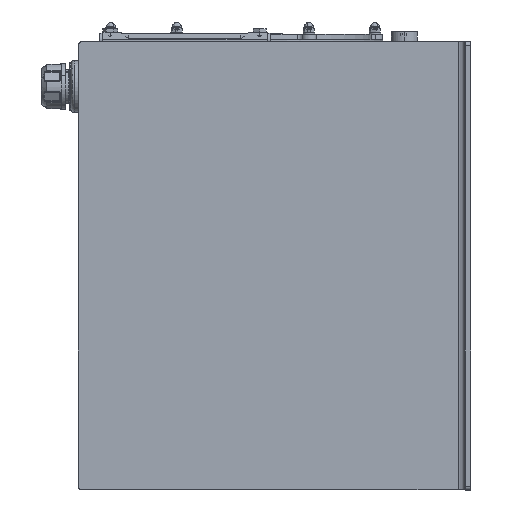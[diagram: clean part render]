
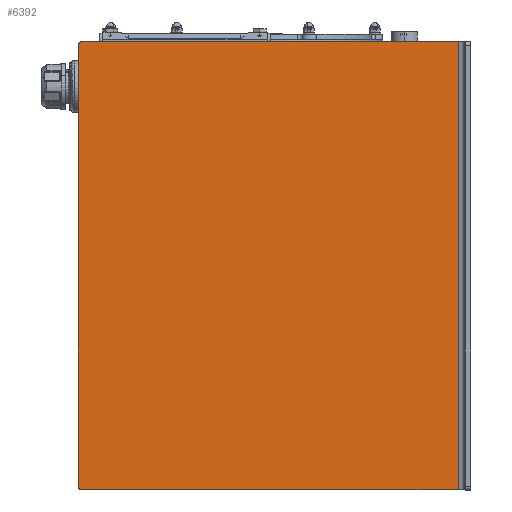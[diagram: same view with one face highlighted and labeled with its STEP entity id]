
A CAD part, left-side view. The second image highlights one B-rep face of the part: STEP entity #6392.
In plain terms, the highlighted planar face has unit normal (-1, 0, 0) as drawn and (0, 0, 1) by its records, which use the part's own axes.
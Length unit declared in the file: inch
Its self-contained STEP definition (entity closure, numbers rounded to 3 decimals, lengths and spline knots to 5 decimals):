
#198 = CIRCLE ( 'NONE', #17126, 0.25 ) ;
#606 = LINE ( 'NONE', #6933, #9617 ) ;
#3623 = EDGE_CURVE ( 'NONE', #11178, #16385, #4268, .T. ) ;
#3988 = CARTESIAN_POINT ( 'NONE',  ( -15., -12.2812, 0. ) ) ;
#4268 = LINE ( 'NONE', #34795, #9002 ) ;
#4302 = CARTESIAN_POINT ( 'NONE',  ( 15., 12.875, 0. ) ) ;
#5278 = DIRECTION ( 'NONE',  ( -1., 0., 0. ) ) ;
#6392 = ADVANCED_FACE ( 'NONE', ( #24016 ), #14517, .F. ) ;
#6541 = EDGE_CURVE ( 'NONE', #16385, #27013, #198, .T. ) ;
#6933 = CARTESIAN_POINT ( 'NONE',  ( -15., -13.125, 0. ) ) ;
#7048 = AXIS2_PLACEMENT_3D ( 'NONE', #19865, #28137, #25528 ) ;
#8403 = EDGE_CURVE ( 'NONE', #29697, #11178, #34665, .T. ) ;
#9002 = VECTOR ( 'NONE', #18332, 39.37008 ) ;
#9617 = VECTOR ( 'NONE', #12295, 39.37008 ) ;
#9919 = CARTESIAN_POINT ( 'NONE',  ( 14.75, 13.125, 0. ) ) ;
#10781 = VERTEX_POINT ( 'NONE', #13317 ) ;
#10877 = ORIENTED_EDGE ( 'NONE', *, *, #3623, .T. ) ;
#11178 = VERTEX_POINT ( 'NONE', #9919 ) ;
#11633 = CARTESIAN_POINT ( 'NONE',  ( 15., -13.125, 0. ) ) ;
#12295 = DIRECTION ( 'NONE',  ( 0., -1., 0. ) ) ;
#13317 = CARTESIAN_POINT ( 'NONE',  ( 15., -12.2812, 0. ) ) ;
#13559 = ORIENTED_EDGE ( 'NONE', *, *, #20766, .T. ) ;
#14517 = PLANE ( 'NONE',  #7048 ) ;
#15681 = DIRECTION ( 'NONE',  ( -1., 0., 0. ) ) ;
#16335 = VECTOR ( 'NONE', #33322, 39.37008 ) ;
#16385 = VERTEX_POINT ( 'NONE', #34653 ) ;
#17126 = AXIS2_PLACEMENT_3D ( 'NONE', #29443, #29312, #15681 ) ;
#18332 = DIRECTION ( 'NONE',  ( -1., 0., 0. ) ) ;
#19206 = DIRECTION ( 'NONE',  ( -1., 0., 0. ) ) ;
#19865 = CARTESIAN_POINT ( 'NONE',  ( 0., 0., 0. ) ) ;
#20039 = LINE ( 'NONE', #21684, #33792 ) ;
#20766 = EDGE_CURVE ( 'NONE', #27013, #33670, #606, .T. ) ;
#21385 = CARTESIAN_POINT ( 'NONE',  ( -15., 12.875, 0. ) ) ;
#21684 = CARTESIAN_POINT ( 'NONE',  ( 15., -12.2812, 0. ) ) ;
#21869 = CARTESIAN_POINT ( 'NONE',  ( 14.75, 12.875, 0. ) ) ;
#24016 = FACE_OUTER_BOUND ( 'NONE', #28612, .T. ) ;
#25528 = DIRECTION ( 'NONE',  ( -1., 0., 0. ) ) ;
#26380 = AXIS2_PLACEMENT_3D ( 'NONE', #21869, #27367, #19206 ) ;
#26587 = EDGE_CURVE ( 'NONE', #10781, #33670, #20039, .T. ) ;
#27013 = VERTEX_POINT ( 'NONE', #21385 ) ;
#27367 = DIRECTION ( 'NONE',  ( 0., 0., 1. ) ) ;
#28137 = DIRECTION ( 'NONE',  ( 0., 0., -1. ) ) ;
#28228 = ORIENTED_EDGE ( 'NONE', *, *, #6541, .T. ) ;
#28332 = LINE ( 'NONE', #11633, #16335 ) ;
#28612 = EDGE_LOOP ( 'NONE', ( #32969, #30539, #10877, #28228, #13559, #34842 ) ) ;
#29312 = DIRECTION ( 'NONE',  ( 0., 0., 1. ) ) ;
#29443 = CARTESIAN_POINT ( 'NONE',  ( -14.75, 12.875, 0. ) ) ;
#29697 = VERTEX_POINT ( 'NONE', #4302 ) ;
#30539 = ORIENTED_EDGE ( 'NONE', *, *, #8403, .T. ) ;
#31538 = EDGE_CURVE ( 'NONE', #10781, #29697, #28332, .T. ) ;
#32969 = ORIENTED_EDGE ( 'NONE', *, *, #31538, .T. ) ;
#33322 = DIRECTION ( 'NONE',  ( 0., 1., 0. ) ) ;
#33670 = VERTEX_POINT ( 'NONE', #3988 ) ;
#33792 = VECTOR ( 'NONE', #5278, 39.37008 ) ;
#34653 = CARTESIAN_POINT ( 'NONE',  ( -14.75, 13.125, 0. ) ) ;
#34665 = CIRCLE ( 'NONE', #26380, 0.25 ) ;
#34795 = CARTESIAN_POINT ( 'NONE',  ( -15., 13.125, 0. ) ) ;
#34842 = ORIENTED_EDGE ( 'NONE', *, *, #26587, .F. ) ;
